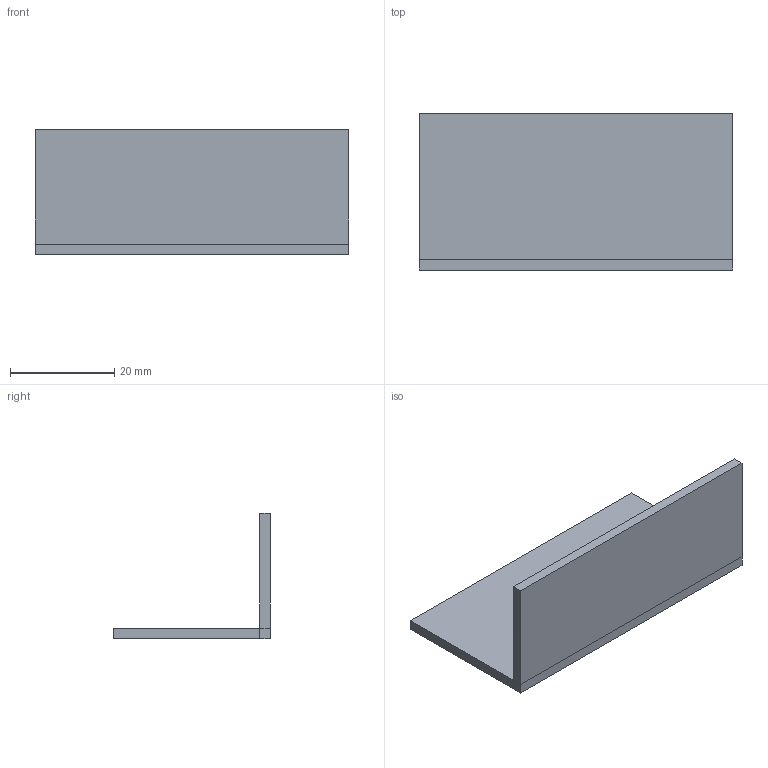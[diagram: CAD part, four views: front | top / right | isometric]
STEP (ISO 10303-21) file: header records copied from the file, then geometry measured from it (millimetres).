
FILE_DESCRIPTION(('Open CASCADE Model'),'2;1');
FILE_NAME('Open CASCADE Shape Model','2026-07-01T01:50:08',('Author'),( 'Open CASCADE'),'Open CASCADE STEP processor 7.9','Open CASCADE 7.9' ,'Unknown');
FILE_SCHEMA(('AUTOMOTIVE_DESIGN { 1 0 10303 214 1 1 1 1 }'));
Length unit declared in the file: millimetre
Products named in the file (1): Open CASCADE STEP translator 7.9 3
Bounding box: 60 x 30 x 24 mm (x, y, z)
Volume: 6240 mm3; surface area: 6688 mm2
Topology: 1 solids, 1 shells, 14 faces, 28 edges, 16 vertices
Faces by surface type: plane 14
Entity records: 720 total; most frequent: CARTESIAN_POINT 117, DIRECTION 112, LINE 82, VECTOR 82, ORIENTED_EDGE 56, PCURVE 56, DEFINITIONAL_REPRESENTATION 56, EDGE_CURVE 28
